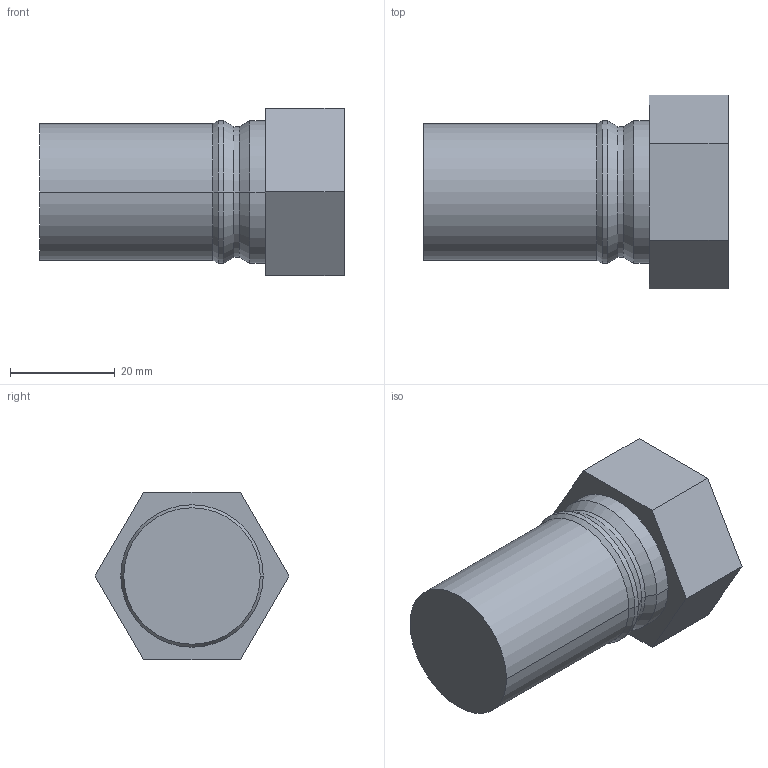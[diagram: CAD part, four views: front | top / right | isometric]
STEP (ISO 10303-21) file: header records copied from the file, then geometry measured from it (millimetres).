
FILE_DESCRIPTION (( 'STEP AP214' ), '1' );
FILE_NAME ('BR601.16 DR 26.STEP', '2020-12-02T13:25:57', ( '' ), ( '' ), 'SwSTEP 2.0', 'SolidWorks 2018', '' );
FILE_SCHEMA (( 'AUTOMOTIVE_DESIGN' ));
Length unit declared in the file: millimetre
Products named in the file (1): BR601.16 DR 26
Bounding box: 58 x 36.95 x 32 mm (x, y, z)
Volume: 36304.1 mm3; surface area: 6976.6 mm2
Topology: 1 solids, 1 shells, 23 faces, 48 edges, 28 vertices
Faces by surface type: plane 9, cylinder 8, cone 6
Entity records: 636 total; most frequent: DIRECTION 112, CARTESIAN_POINT 100, ORIENTED_EDGE 96, EDGE_CURVE 48, AXIS2_PLACEMENT_3D 40, LINE 32, VECTOR 32, VERTEX_POINT 28
